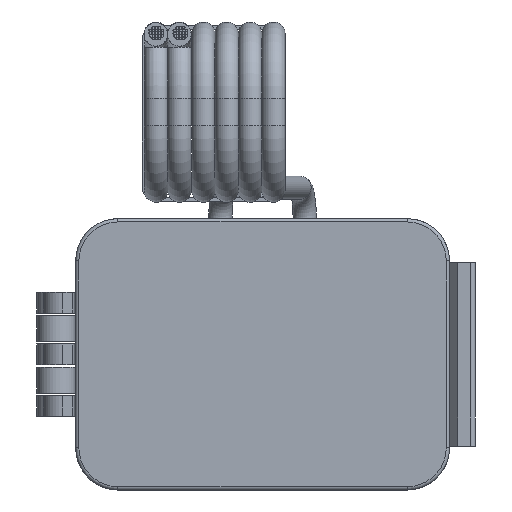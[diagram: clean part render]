
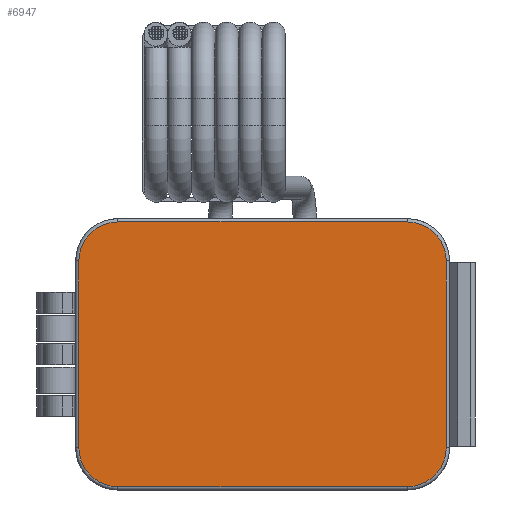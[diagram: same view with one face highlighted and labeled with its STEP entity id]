
A CAD part, front view. The second image highlights one B-rep face of the part: STEP entity #6947.
In plain terms, the highlighted planar face has unit normal (0, -1, 0).
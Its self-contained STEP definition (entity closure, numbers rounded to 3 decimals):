
#673=LINE('',#11709,#1254);
#674=LINE('',#11724,#1255);
#675=LINE('',#11729,#1256);
#678=LINE('',#11745,#1259);
#1254=VECTOR('',#9205,10.);
#1255=VECTOR('',#9226,10.);
#1256=VECTOR('',#9231,10.);
#1259=VECTOR('',#9252,10.);
#1753=FACE_OUTER_BOUND('',#2204,.T.);
#2204=EDGE_LOOP('',(#5638,#5639,#5640,#5641,#5642,#5643,#5644,#5645));
#2497=CIRCLE('',#7548,6.);
#2499=CIRCLE('',#7551,6.);
#2505=CIRCLE('',#7560,6.);
#2507=CIRCLE('',#7563,6.);
#3164=VERTEX_POINT('',#11705);
#3165=VERTEX_POINT('',#11707);
#3166=VERTEX_POINT('',#11711);
#3168=VERTEX_POINT('',#11717);
#3169=VERTEX_POINT('',#11722);
#3171=VERTEX_POINT('',#11727);
#3172=VERTEX_POINT('',#11732);
#3175=VERTEX_POINT('',#11739);
#4027=EDGE_CURVE('',#3165,#3164,#673,.T.);
#4030=EDGE_CURVE('',#3164,#3166,#2497,.T.);
#4032=EDGE_CURVE('',#3168,#3165,#2499,.T.);
#4035=EDGE_CURVE('',#3166,#3169,#674,.T.);
#4037=EDGE_CURVE('',#3171,#3168,#675,.T.);
#4041=EDGE_CURVE('',#3169,#3172,#2505,.T.);
#4043=EDGE_CURVE('',#3175,#3171,#2507,.T.);
#4046=EDGE_CURVE('',#3172,#3175,#678,.T.);
#5638=ORIENTED_EDGE('',*,*,#4027,.F.);
#5639=ORIENTED_EDGE('',*,*,#4032,.F.);
#5640=ORIENTED_EDGE('',*,*,#4037,.F.);
#5641=ORIENTED_EDGE('',*,*,#4043,.F.);
#5642=ORIENTED_EDGE('',*,*,#4046,.F.);
#5643=ORIENTED_EDGE('',*,*,#4041,.F.);
#5644=ORIENTED_EDGE('',*,*,#4035,.F.);
#5645=ORIENTED_EDGE('',*,*,#4030,.F.);
#6620=PLANE('',#7569);
#6947=ADVANCED_FACE('',(#1753),#6620,.T.);
#7548=AXIS2_PLACEMENT_3D('',#11714,#9212,#9213);
#7551=AXIS2_PLACEMENT_3D('',#11719,#9218,#9219);
#7560=AXIS2_PLACEMENT_3D('',#11736,#9239,#9240);
#7563=AXIS2_PLACEMENT_3D('',#11741,#9245,#9246);
#7569=AXIS2_PLACEMENT_3D('',#11752,#9262,#9263);
#9205=DIRECTION('',(-1.,0.,0.));
#9212=DIRECTION('center_axis',(0.,1.,0.));
#9213=DIRECTION('ref_axis',(-1.,0.,0.));
#9218=DIRECTION('center_axis',(0.,1.,0.));
#9219=DIRECTION('ref_axis',(0.,0.,-1.));
#9226=DIRECTION('',(0.,0.,1.));
#9231=DIRECTION('',(0.,0.,-1.));
#9239=DIRECTION('center_axis',(0.,1.,0.));
#9240=DIRECTION('ref_axis',(0.,0.,1.));
#9245=DIRECTION('center_axis',(0.,1.,0.));
#9246=DIRECTION('ref_axis',(1.,0.,0.));
#9252=DIRECTION('',(1.,0.,0.));
#9262=DIRECTION('center_axis',(0.,-1.,0.));
#9263=DIRECTION('ref_axis',(0.,0.,-1.));
#11705=CARTESIAN_POINT('',(15.37,-7.456,0.5));
#11707=CARTESIAN_POINT('',(59.97,-7.456,0.5));
#11709=CARTESIAN_POINT('',(59.97,-7.456,0.5));
#11711=CARTESIAN_POINT('',(9.37,-7.456,6.5));
#11714=CARTESIAN_POINT('Origin',(15.37,-7.456,6.5));
#11717=CARTESIAN_POINT('',(65.97,-7.456,6.5));
#11719=CARTESIAN_POINT('Origin',(59.97,-7.456,6.5));
#11722=CARTESIAN_POINT('',(9.37,-7.456,35.3));
#11724=CARTESIAN_POINT('',(9.37,-7.456,6.5));
#11727=CARTESIAN_POINT('',(65.97,-7.456,35.3));
#11729=CARTESIAN_POINT('',(65.97,-7.456,35.3));
#11732=CARTESIAN_POINT('',(15.37,-7.456,41.3));
#11736=CARTESIAN_POINT('Origin',(15.37,-7.456,35.3));
#11739=CARTESIAN_POINT('',(59.97,-7.456,41.3));
#11741=CARTESIAN_POINT('Origin',(59.97,-7.456,35.3));
#11745=CARTESIAN_POINT('',(15.37,-7.456,41.3));
#11752=CARTESIAN_POINT('Origin',(37.67,-7.456,0.5));
